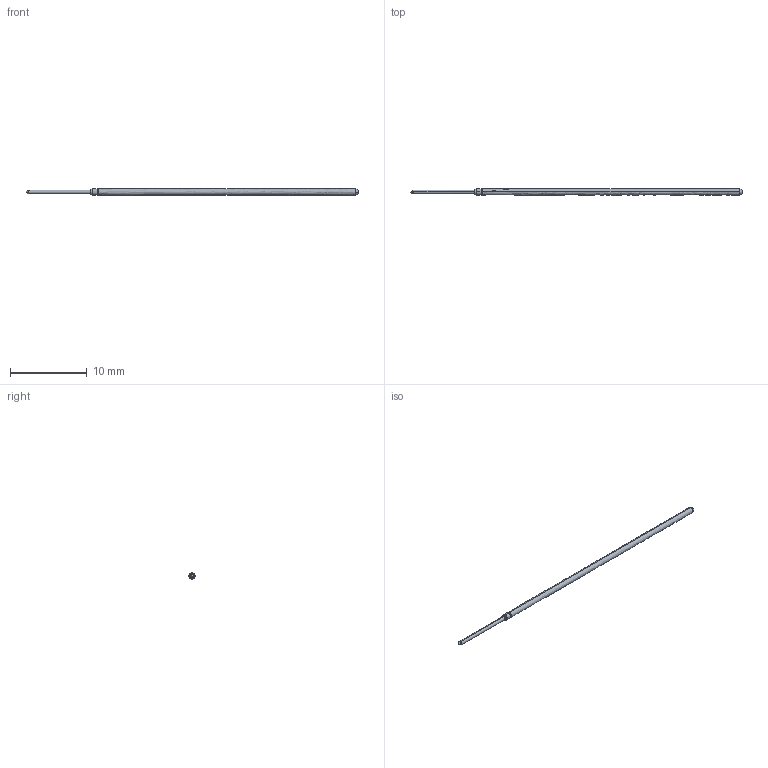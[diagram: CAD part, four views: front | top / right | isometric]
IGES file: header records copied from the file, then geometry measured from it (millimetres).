
Start section: SolidWorks IGES file using analytic representation for surfaces
Global section: file name: L:\probe solid model mockups\Solidworks models\POGO-72T20.IGS; native system: SolidWorks 2006 by SolidWorks Corporation; preprocessor: SolidWorks 2006 by SolidWorks Corporation; author: Ksnyder; date: 071211.140024; units: inch
Bounding box: 43.18 x 0.79 x 0.79 mm (x, y, z)
Surface area: 182 mm2
Topology: 1 solids, 1 shells, 21 faces, 46 edges, 26 vertices
Faces by surface type: revolution 16, plane 5
